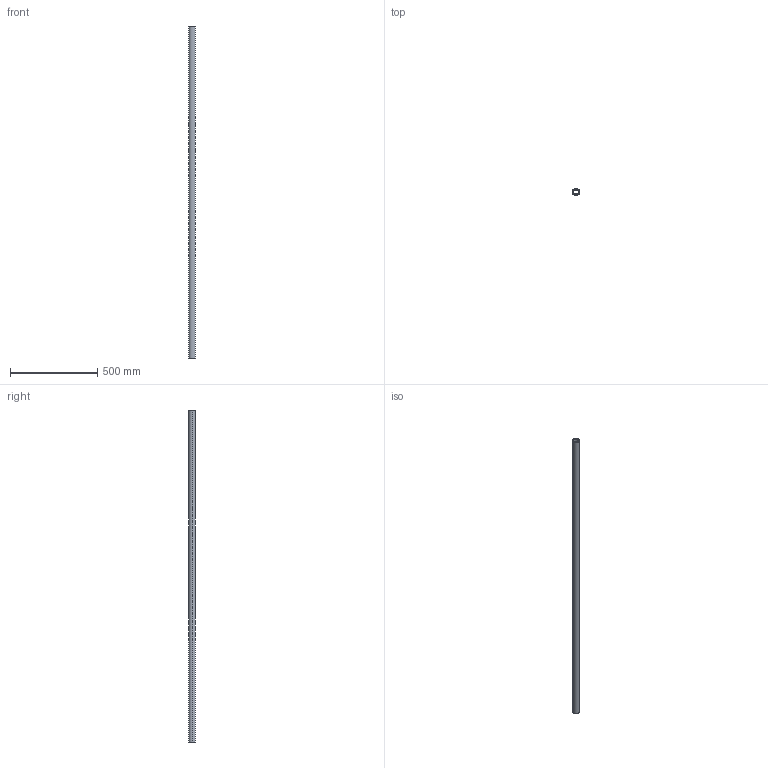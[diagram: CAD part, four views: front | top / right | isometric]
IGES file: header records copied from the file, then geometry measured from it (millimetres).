
Start section: SolidWorks IGES file using analytic representation for surfaces
Global section: file name: C:\Users\IanO\Desktop\L1771_v2\L1771.40_v2\L1771.40_v2_20230705_IGES\L1771.40-1900.igs; native system: SolidWorks 2019; preprocessor: SolidWorks 2019; author: IanO; date: 230705.160914; units: millimetre
Bounding box: 40 x 40 x 1900 mm (x, y, z)
Surface area: 407175.5 mm2 (no closed solid volume)
Topology: 0 solids, 0 shells, 6 faces, 272 edges, 272 vertices
Faces by surface type: revolution 4, bspline 2
